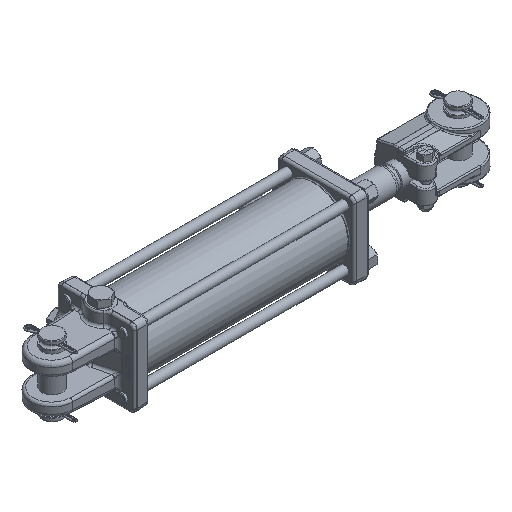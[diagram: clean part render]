
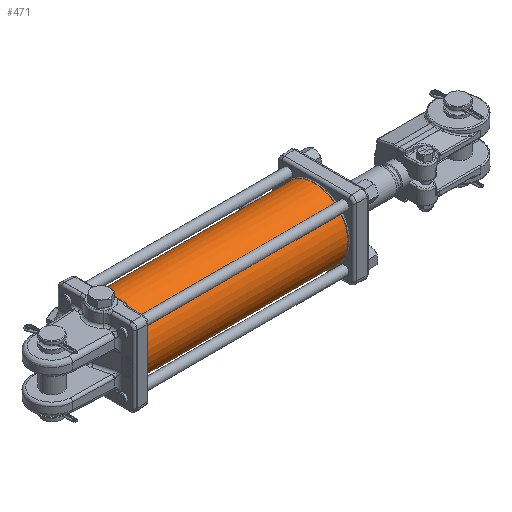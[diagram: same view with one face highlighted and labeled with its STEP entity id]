
A CAD part, isometric view. The second image highlights one B-rep face of the part: STEP entity #471.
In plain terms, the highlighted cylindrical face has radius 42.862 mm (diameter 85.725 mm), a full revolution.
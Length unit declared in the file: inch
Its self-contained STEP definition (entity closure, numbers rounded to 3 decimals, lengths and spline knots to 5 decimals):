
#210=CARTESIAN_POINT('',(-0.842,1.68662,0.0545));
#211=VERTEX_POINT('',#210);
#212=CARTESIAN_POINT('',(-0.842,1.68662,0.0545));
#213=CARTESIAN_POINT('',(-0.84884,1.68662,0.0545));
#214=CARTESIAN_POINT('',(-0.85614,1.68667,0.05313));
#215=CARTESIAN_POINT('',(-0.86957,1.68683,0.04757));
#216=CARTESIAN_POINT('',(-0.8757,1.68695,0.04338));
#217=CARTESIAN_POINT('',(-0.88538,1.68717,0.0337));
#218=CARTESIAN_POINT('',(-0.88957,1.68729,0.02757));
#219=CARTESIAN_POINT('',(-0.89513,1.68745,0.01414));
#220=CARTESIAN_POINT('',(-0.8965,1.6875,0.00684));
#221=CARTESIAN_POINT('',(-0.8965,1.6875,-0.00684));
#222=CARTESIAN_POINT('',(-0.89513,1.68745,-0.01414));
#223=CARTESIAN_POINT('',(-0.88957,1.68729,-0.02757));
#224=CARTESIAN_POINT('',(-0.88538,1.68717,-0.0337));
#225=CARTESIAN_POINT('',(-0.8757,1.68695,-0.04338));
#226=CARTESIAN_POINT('',(-0.86957,1.68683,-0.04757));
#227=CARTESIAN_POINT('',(-0.85614,1.68667,-0.05313));
#228=CARTESIAN_POINT('',(-0.84884,1.68662,-0.0545));
#229=CARTESIAN_POINT('',(-0.83516,1.68662,-0.0545));
#230=CARTESIAN_POINT('',(-0.82786,1.68667,-0.05313));
#231=CARTESIAN_POINT('',(-0.81443,1.68683,-0.04757));
#232=CARTESIAN_POINT('',(-0.8083,1.68695,-0.04338));
#233=CARTESIAN_POINT('',(-0.79862,1.68717,-0.0337));
#234=CARTESIAN_POINT('',(-0.79443,1.68729,-0.02757));
#235=CARTESIAN_POINT('',(-0.78887,1.68745,-0.01414));
#236=CARTESIAN_POINT('',(-0.7875,1.6875,-0.00684));
#237=CARTESIAN_POINT('',(-0.7875,1.6875,0.00684));
#238=CARTESIAN_POINT('',(-0.78887,1.68745,0.01414));
#239=CARTESIAN_POINT('',(-0.79443,1.68729,0.02757));
#240=CARTESIAN_POINT('',(-0.79862,1.68717,0.0337));
#241=CARTESIAN_POINT('',(-0.8083,1.68695,0.04338));
#242=CARTESIAN_POINT('',(-0.81443,1.68683,0.04757));
#243=CARTESIAN_POINT('',(-0.82786,1.68667,0.05313));
#244=CARTESIAN_POINT('',(-0.83516,1.68662,0.0545));
#245=CARTESIAN_POINT('',(-0.842,1.68662,0.0545));
#246=B_SPLINE_CURVE_WITH_KNOTS('',3,(#212,#213,#214,#215,#216,#217,#218,#219,#220,#221,#222,#223,#224,#225,#226,#227,#228,#229,#230,#231,#232,#233,#234,#235,#236,#237,#238,#239,#240,#241,#242,#243,#244,#245),.UNSPECIFIED.,.T.,.U.,(4,2,2,2,2,2,2,2,2,2,2,2,2,2,2,2,4),(0.0,0.05215,0.1043,0.15645,0.20859,0.26074,0.31289,0.36504,0.41719,0.46934,0.52149,0.57363,0.62578,0.67793,0.73008,0.78223,0.83438),.UNSPECIFIED.);
#247=EDGE_CURVE('',#211,#211,#246,.T.);
#298=CARTESIAN_POINT('',(-1.222,1.68722,0.031));
#299=VERTEX_POINT('',#298);
#300=CARTESIAN_POINT('',(-1.222,1.68722,0.031));
#301=CARTESIAN_POINT('',(-1.22589,1.68722,0.031));
#302=CARTESIAN_POINT('',(-1.23004,1.68723,0.03022));
#303=CARTESIAN_POINT('',(-1.23768,1.68728,0.02706));
#304=CARTESIAN_POINT('',(-1.24117,1.68732,0.02467));
#305=CARTESIAN_POINT('',(-1.24667,1.68739,0.01917));
#306=CARTESIAN_POINT('',(-1.24906,1.68743,0.01568));
#307=CARTESIAN_POINT('',(-1.25222,1.68749,0.00804));
#308=CARTESIAN_POINT('',(-1.253,1.6875,0.00389));
#309=CARTESIAN_POINT('',(-1.253,1.6875,-0.00389));
#310=CARTESIAN_POINT('',(-1.25222,1.68749,-0.00804));
#311=CARTESIAN_POINT('',(-1.24906,1.68743,-0.01568));
#312=CARTESIAN_POINT('',(-1.24667,1.68739,-0.01917));
#313=CARTESIAN_POINT('',(-1.24117,1.68732,-0.02467));
#314=CARTESIAN_POINT('',(-1.23768,1.68728,-0.02706));
#315=CARTESIAN_POINT('',(-1.23004,1.68723,-0.03022));
#316=CARTESIAN_POINT('',(-1.22589,1.68722,-0.031));
#317=CARTESIAN_POINT('',(-1.21811,1.68722,-0.031));
#318=CARTESIAN_POINT('',(-1.21396,1.68723,-0.03022));
#319=CARTESIAN_POINT('',(-1.20632,1.68728,-0.02706));
#320=CARTESIAN_POINT('',(-1.20283,1.68732,-0.02467));
#321=CARTESIAN_POINT('',(-1.19733,1.68739,-0.01917));
#322=CARTESIAN_POINT('',(-1.19494,1.68743,-0.01568));
#323=CARTESIAN_POINT('',(-1.19178,1.68749,-0.00804));
#324=CARTESIAN_POINT('',(-1.191,1.6875,-0.00389));
#325=CARTESIAN_POINT('',(-1.191,1.6875,0.00389));
#326=CARTESIAN_POINT('',(-1.19178,1.68749,0.00804));
#327=CARTESIAN_POINT('',(-1.19494,1.68743,0.01568));
#328=CARTESIAN_POINT('',(-1.19733,1.68739,0.01917));
#329=CARTESIAN_POINT('',(-1.20283,1.68732,0.02467));
#330=CARTESIAN_POINT('',(-1.20632,1.68728,0.02706));
#331=CARTESIAN_POINT('',(-1.21396,1.68723,0.03022));
#332=CARTESIAN_POINT('',(-1.21811,1.68722,0.031));
#333=CARTESIAN_POINT('',(-1.222,1.68722,0.031));
#334=B_SPLINE_CURVE_WITH_KNOTS('',3,(#300,#301,#302,#303,#304,#305,#306,#307,#308,#309,#310,#311,#312,#313,#314,#315,#316,#317,#318,#319,#320,#321,#322,#323,#324,#325,#326,#327,#328,#329,#330,#331,#332,#333),.UNSPECIFIED.,.T.,.U.,(4,2,2,2,2,2,2,2,2,2,2,2,2,2,2,2,4),(0.0,0.02966,0.05932,0.08898,0.11864,0.14831,0.17797,0.20763,0.23729,0.26695,0.29661,0.32627,0.35593,0.38559,0.41525,0.44492,0.47458),.UNSPECIFIED.);
#335=EDGE_CURVE('',#299,#299,#334,.T.);
#345=CARTESIAN_POINT('',(0.,1.6875,0.0));
#346=VERTEX_POINT('',#345);
#347=CARTESIAN_POINT('',(0.,0.0,0.0));
#348=DIRECTION('',(1.0,0.0,0.0));
#349=DIRECTION('',(0.0,1.0,0.0));
#350=AXIS2_PLACEMENT_3D('',#347,#348,#349);
#351=CIRCLE('',#350,1.6875);
#352=EDGE_CURVE('',#346,#346,#351,.T.);
#439=CARTESIAN_POINT('',(-10.093,1.6875,0.0));
#440=VERTEX_POINT('',#439);
#441=CARTESIAN_POINT('',(-10.093,0.0,0.0));
#442=DIRECTION('',(1.0,0.0,0.0));
#443=DIRECTION('',(0.0,1.0,0.0));
#444=AXIS2_PLACEMENT_3D('',#441,#442,#443);
#445=CIRCLE('',#444,1.6875);
#446=EDGE_CURVE('',#440,#440,#445,.T.);
#454=CARTESIAN_POINT('',(-5.0465,0.0,0.0));
#455=DIRECTION('',(1.0,0.0,0.0));
#456=DIRECTION('',(0.0,1.0,0.0));
#457=AXIS2_PLACEMENT_3D('',#454,#455,#456);
#458=CYLINDRICAL_SURFACE('',#457,1.6875);
#459=ORIENTED_EDGE('',*,*,#352,.F.);
#460=EDGE_LOOP('',(#459));
#461=FACE_OUTER_BOUND('',#460,.T.);
#462=ORIENTED_EDGE('',*,*,#247,.T.);
#463=EDGE_LOOP('',(#462));
#464=FACE_BOUND('',#463,.T.);
#465=ORIENTED_EDGE('',*,*,#335,.T.);
#466=EDGE_LOOP('',(#465));
#467=FACE_BOUND('',#466,.T.);
#468=ORIENTED_EDGE('',*,*,#446,.T.);
#469=EDGE_LOOP('',(#468));
#470=FACE_BOUND('',#469,.T.);
#471=ADVANCED_FACE('',(#461,#464,#467,#470),#458,.T.);
